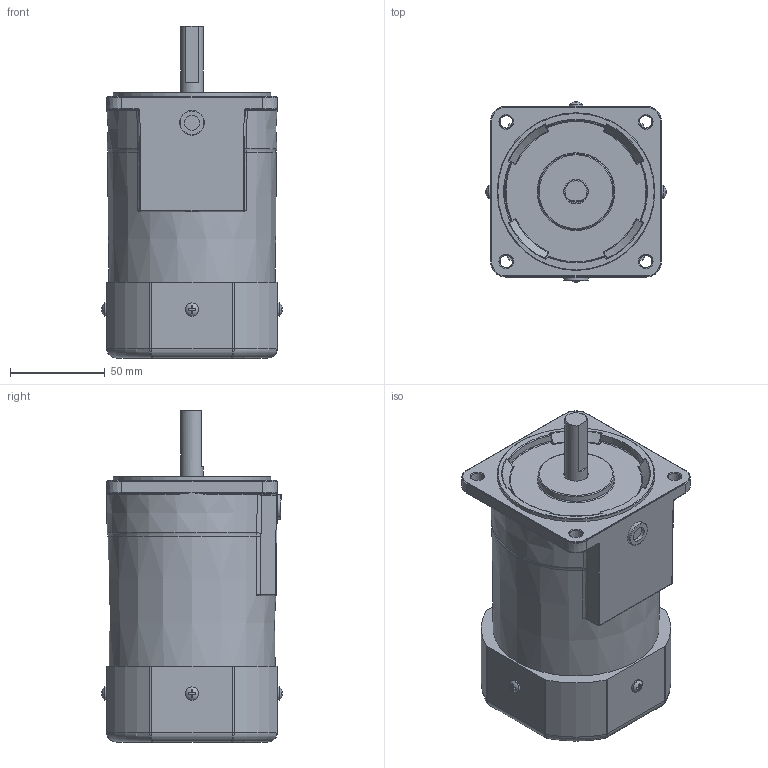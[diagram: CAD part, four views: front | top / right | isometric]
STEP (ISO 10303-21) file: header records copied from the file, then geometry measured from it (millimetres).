
FILE_DESCRIPTION (( 'STEP AP214' ), '1' );
FILE_NAME ('9IDD¤±-90F-A.STEP', '2025-01-13T02:54:57', ( '' ), ( '' ), 'SwSTEP 2.0', 'SolidWorks 2024', '' );
FILE_SCHEMA (( 'AUTOMOTIVE_DESIGN' ));
Length unit declared in the file: millimetre
Products named in the file (1): 9IDDㅁ-90F-A
Bounding box: 95.09 x 95.09 x 175 mm (x, y, z)
Volume: 915178.9 mm3; surface area: 62735.1 mm2
Topology: 1 solids, 1 shells, 400 faces, 1016 edges, 634 vertices
Faces by surface type: plane 146, cylinder 137, torus 38, bspline 36, cone 33, sphere 10
Full cylindrical faces by diameter (mm): 6.1 x1, 6.5 x4, 7 x4, 8 x1, 12 x1, 13 x2, 83.1 x1
Entity records: 13122 total; most frequent: CARTESIAN_POINT 3882, DIRECTION 1935, ORIENTED_EDGE 1886, EDGE_CURVE 943, AXIS2_PLACEMENT_3D 772, VERTEX_POINT 619, EDGE_LOOP 482, FACE_OUTER_BOUND 421
